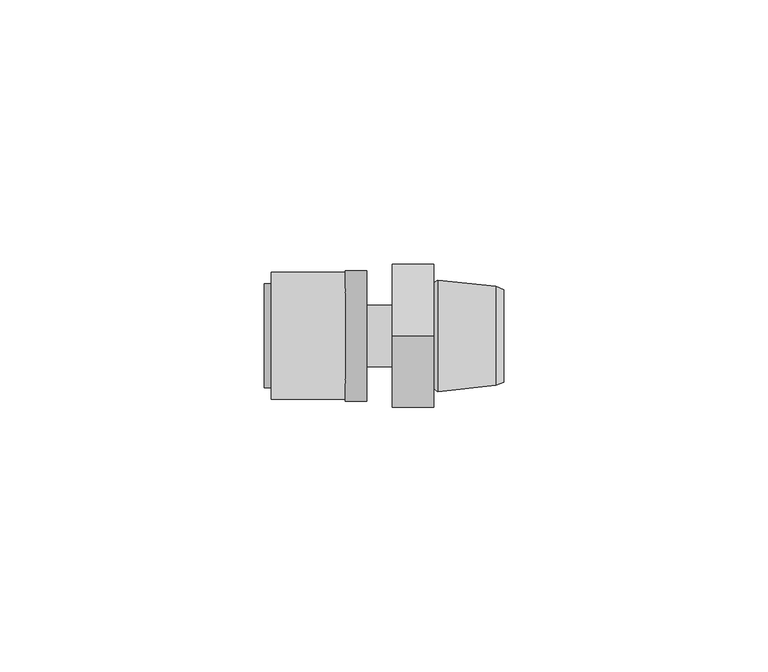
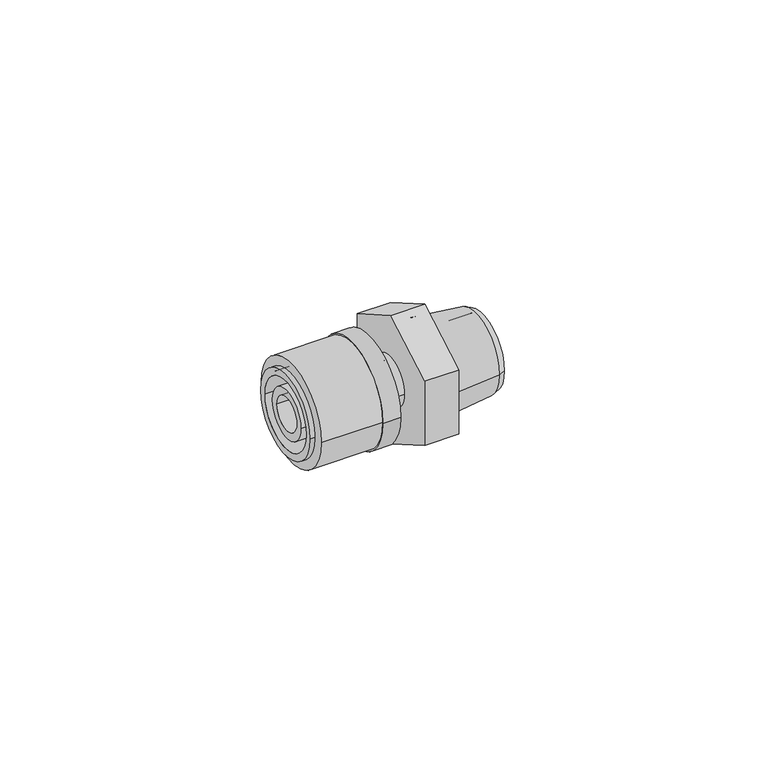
"""IFC4 building model written with IfcOpenShell, lengths in millimetres: pipe fitting geometry, FASTLOC_Adapter_RX+, with external thread : FSL A C external EX+ AT."""

from ifc_helpers import new_model, si_unit, point, frame, origin, origin_2d, place, context, project, spatial, polyline, circle_curve, trimmed, segment, composite_curve, outline, extrude, source, transform, mapped, element, save
from ifc_brep_helpers import plane_surface, cylinder_surface, revolved_surface, advanced_brep


def pipe_fitting_a8691e68(model_context):
    return source(origin(), model_context, "Body", "SolidModel", [
        extrude(outline(composite_curve([segment(trimmed(circle_curve(origin_2d(), 12.0), [point((12.0, 0.0))], [point((-12.0, 0.0))], False, "CARTESIAN"), True, "CONTINUOUS"), segment(trimmed(circle_curve(origin_2d(), 12.0), [point((-12.0, 0.0))], [point((12.0, 0.0))], False, "CARTESIAN"), True, "CONTINUOUS")], self_intersect=False), holes=[composite_curve([segment(trimmed(circle_curve(origin_2d(), 8.85), [point((8.85, 0.0))], [point((-8.85, 0.0))], True, "CARTESIAN"), True, "CONTINUOUS"), segment(trimmed(circle_curve(origin_2d(), 8.85), [point((-8.85, 0.0))], [point((8.85, 0.0))], True, "CARTESIAN"), True, "CONTINUOUS")], self_intersect=False)]), frame((-22.9, 0.0, 0.0), z_axis=(1.0, 0.0, 0.0), x_axis=(0.0, 1.0, 0.0)), (0.0, 0.0, 1.0), 14.0),
        advanced_brep(
        [(-8.9, -12.35, 0.0), (-8.9, 12.35, 0.0), (-4.9, 12.35, 0.0), (-4.9, -12.35, 0.0), (-24.2, -9.85, 0.0), (-24.2, 9.85, 0.0), (-8.9, 9.85, 0.0), (-8.9, -9.85, 0.0), (-4.9, -8.15, 0.0), (-4.9, 8.15, 0.0), (-24.2, 8.15, 0.0), (-24.2, -8.15, 0.0)],
        [
            (0, 1, circle_curve(frame((-8.9, 0.0, 0.0), z_axis=(1.0, 0.0, 0.0), x_axis=(0.0, 1.0, 0.0)), 12.35)),
            (1, 2),
            (2, 3, circle_curve(frame((-4.9, 0.0, 0.0), z_axis=(-1.0, 0.0, 0.0), x_axis=(0.0, 1.0, 0.0)), 12.35)),
            (3, 0),
            (4, 5, circle_curve(frame((-24.2, 0.0, 0.0), z_axis=(1.0, 0.0, 0.0), x_axis=(0.0, 1.0, 0.0)), 9.85)),
            (5, 6),
            (6, 7, circle_curve(frame((-8.9, 0.0, 0.0), z_axis=(-1.0, 0.0, 0.0), x_axis=(0.0, 1.0, 0.0)), 9.85)),
            (7, 4),
            (8, 9, circle_curve(frame((-4.9, 0.0, 0.0), z_axis=(1.0, 0.0, 0.0), x_axis=(0.0, 1.0, 0.0)), 8.15)),
            (9, 10),
            (10, 11, circle_curve(frame((-24.2, 0.0, 0.0), z_axis=(-1.0, 0.0, 0.0), x_axis=(0.0, 1.0, 0.0)), 8.15)),
            (11, 8),
            (1, 0, circle_curve(frame((-8.9, 0.0, 0.0), z_axis=(1.0, 0.0, 0.0), x_axis=(0.0, -1.0, 0.0)), 12.35)),
            (3, 2, circle_curve(frame((-4.9, 0.0, 0.0), z_axis=(-1.0, 0.0, 0.0), x_axis=(0.0, -1.0, 0.0)), 12.35)),
            (6, 7, circle_curve(frame((-8.9, 0.0, 0.0), z_axis=(1.0, 0.0, 0.0), x_axis=(0.0, -1.0, 0.0)), 9.85)),
            (5, 4, circle_curve(frame((-24.2, 0.0, 0.0), z_axis=(1.0, 0.0, 0.0), x_axis=(0.0, -1.0, 0.0)), 9.85)),
            (10, 11, circle_curve(frame((-24.2, 0.0, 0.0), z_axis=(1.0, 0.0, 0.0), x_axis=(0.0, -1.0, 0.0)), 8.15)),
            (9, 8, circle_curve(frame((-4.9, 0.0, 0.0), z_axis=(1.0, 0.0, 0.0), x_axis=(0.0, -1.0, 0.0)), 8.15)),
        ],
        [
            cylinder_surface(frame((-4.9, 0.0, 0.0), z_axis=(-1.0, 0.0, 0.0), x_axis=(0.0, 1.0, 0.0)), 12.35),
            cylinder_surface(frame((-4.9, 0.0, 0.0), z_axis=(-1.0, 0.0, 0.0), x_axis=(0.0, 1.0, 0.0)), 9.85),
            revolved_surface(polyline([(-24.199999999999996, 8.15, 0.0), (-4.9, 8.15, 0.0)]), (-4.9, 0.0, 0.0), (-1.0, 0.0, 0.0)),
            cylinder_surface(frame((-4.9, 0.0, 0.0), z_axis=(-1.0, 0.0, 0.0), x_axis=(0.0, -1.0, 0.0)), 12.35),
            plane_surface(frame((-8.9, 0.0, 0.0), z_axis=(-1.0, 0.0, 0.0), x_axis=(0.0, -1.0, 0.0))),
            cylinder_surface(frame((-4.9, 0.0, 0.0), z_axis=(-1.0, 0.0, 0.0), x_axis=(0.0, -1.0, 0.0)), 9.85),
            plane_surface(frame((-24.2, 0.0, 0.0), z_axis=(-1.0, 0.0, 0.0), x_axis=(0.0, -1.0, 0.0))),
            revolved_surface(polyline([(-24.199999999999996, -8.15, 0.0), (-4.9, -8.15, 0.0)]), (-4.9, 0.0, 0.0), (-1.0, 0.0, 0.0)),
            plane_surface(frame((-4.9, 0.0, 0.0), z_axis=(1.0, 0.0, 0.0), x_axis=(0.0, -1.0, 0.0))),
        ],
        [
            (0, [[1, 2, 3, 4]]),
            (1, [[5, 6, 7, 8]]),
            (2, [[9, 10, 11, 12]]),
            (3, [[13, -4, 14, -2]]),
            (4, [[-13, -1], [15, -7]]),
            (5, [[16, -8, -15, -6]]),
            (6, [[-16, -5], [17, -11]]),
            (7, [[18, -12, -17, -10]]),
            (8, [[-14, -3], [-18, -9]]),
        ],
    ),
        advanced_brep(
        [(8.9032803, 7.5, 0.0), (8.9032803, -7.5, 0.0), (21.0, -7.5, 0.0), (21.0, 7.5, 0.0), (7.8, 6.3967197, 0.0), (7.8, -6.3967197, 0.0), (8.5406902, 10.55, 0.0), (8.5406902, -10.55, 0.0), (7.8, -10.0, 0.0), (7.8, 10.0, 0.0), (19.5000007, 9.35, 0.0), (19.5000007, -9.35, 0.0), (21.0, 8.725, 0.0), (21.0, -8.725, 0.0)],
        [
            (0, 1, circle_curve(frame((8.9032803, 0.0, 0.0), z_axis=(-1.0, 0.0, 0.0), x_axis=(0.0, -1.0, 0.0)), 7.5)),
            (1, 2),
            (2, 3, circle_curve(frame((21.0, 0.0, 0.0), z_axis=(1.0, 0.0, 0.0), x_axis=(0.0, -1.0, 0.0)), 7.5)),
            (3, 0),
            (4, 5, circle_curve(frame((7.8, 0.0, 0.0), z_axis=(-1.0, 0.0, 0.0), x_axis=(0.0, -1.0, 0.0)), 6.3967197)),
            (5, 1),
            (0, 4),
            (6, 7, circle_curve(frame((8.5406902, 0.0, 0.0), z_axis=(-1.0, 0.0, 0.0), x_axis=(0.0, -1.0, 0.0)), 10.55)),
            (7, 8),
            (8, 9, circle_curve(frame((7.8, 0.0, 0.0), z_axis=(1.0, 0.0, 0.0), x_axis=(0.0, -1.0, 0.0)), 10.0)),
            (9, 6),
            (10, 11, circle_curve(frame((19.5000007, 0.0, 0.0), z_axis=(-1.0, 0.0, 0.0), x_axis=(0.0, -1.0, 0.0)), 9.35)),
            (11, 7),
            (6, 10),
            (12, 13, circle_curve(frame((21.0, 0.0, 0.0), z_axis=(-1.0, 0.0, 0.0), x_axis=(0.0, -1.0, 0.0)), 8.725)),
            (13, 11),
            (10, 12),
            (1, 0, circle_curve(frame((8.9032803, 0.0, 0.0), z_axis=(-1.0, 0.0, 0.0), x_axis=(0.0, 1.0, 0.0)), 7.5)),
            (3, 2, circle_curve(frame((21.0, 0.0, 0.0), z_axis=(1.0, 0.0, 0.0), x_axis=(0.0, 1.0, 0.0)), 7.5)),
            (5, 4, circle_curve(frame((7.8, 0.0, 0.0), z_axis=(-1.0, 0.0, 0.0), x_axis=(0.0, 1.0, 0.0)), 6.3967197)),
            (8, 9, circle_curve(frame((7.8, 0.0, 0.0), z_axis=(-1.0, 0.0, 0.0), x_axis=(0.0, 1.0, 0.0)), 10.0)),
            (7, 6, circle_curve(frame((8.5406902, 0.0, 0.0), z_axis=(-1.0, 0.0, 0.0), x_axis=(0.0, 1.0, 0.0)), 10.55)),
            (11, 10, circle_curve(frame((19.5000007, 0.0, 0.0), z_axis=(-1.0, 0.0, 0.0), x_axis=(0.0, 1.0, 0.0)), 9.35)),
            (13, 12, circle_curve(frame((21.0, 0.0, 0.0), z_axis=(-1.0, 0.0, 0.0), x_axis=(0.0, 1.0, 0.0)), 8.725)),
        ],
        [
            revolved_surface(polyline([(21.0, -7.5, 0.0), (8.9032803, -7.5, 0.0)]), (0.0, 0.0, 0.0), (1.0, 0.0, 0.0)),
            revolved_surface(polyline([(8.9032803, -7.5, 0.0), (7.8, -6.3967197, 0.0)]), (0.0, 0.0, 0.0), (1.0, 0.0, 0.0)),
            revolved_surface(polyline([(7.8, -10.0, 0.0), (8.5406902, -10.55, 0.0)]), (0.0, 0.0, 0.0), (1.0, 0.0, 0.0)),
            revolved_surface(polyline([(8.5406902, -10.55, 0.0), (19.5000007, -9.35, 0.0)]), (0.0, 0.0, 0.0), (1.0, 0.0, 0.0)),
            revolved_surface(polyline([(19.5000007, -9.35, 0.0), (21.0, -8.725, 0.0)]), (0.0, 0.0, 0.0), (1.0, 0.0, 0.0)),
            revolved_surface(polyline([(21.0, 7.5, 0.0), (8.9032803, 7.5, 0.0)]), (0.0, 0.0, 0.0), (1.0, 0.0, 0.0)),
            revolved_surface(polyline([(8.9032803, 7.5, 0.0), (7.8, 6.3967197, 0.0)]), (0.0, 0.0, 0.0), (1.0, 0.0, 0.0)),
            plane_surface(frame((7.8, 0.0, 0.0), z_axis=(-1.0, 0.0, 0.0), x_axis=(0.0, 1.0, 0.0))),
            revolved_surface(polyline([(7.8, 10.0, 0.0), (8.5406902, 10.55, 0.0)]), (0.0, 0.0, 0.0), (1.0, 0.0, 0.0)),
            revolved_surface(polyline([(8.5406902, 10.55, 0.0), (19.5000007, 9.35, 0.0)]), (0.0, 0.0, 0.0), (1.0, 0.0, 0.0)),
            revolved_surface(polyline([(19.5000007, 9.35, 0.0), (21.0, 8.725, 0.0)]), (0.0, 0.0, 0.0), (1.0, 0.0, 0.0)),
            plane_surface(frame((21.0, 0.0, 0.0), z_axis=(1.0, 0.0, 0.0), x_axis=(0.0, 1.0, 0.0))),
        ],
        [
            (0, [[1, 2, 3, 4]]),
            (1, [[5, 6, -1, 7]]),
            (2, [[8, 9, 10, 11]]),
            (3, [[12, 13, -8, 14]]),
            (4, [[15, 16, -12, 17]]),
            (5, [[18, -4, 19, -2]]),
            (6, [[20, -7, -18, -6]]),
            (7, [[21, -10], [-20, -5]]),
            (8, [[22, -11, -21, -9]]),
            (9, [[23, -14, -22, -13]]),
            (10, [[24, -17, -23, -16]]),
            (11, [[-24, -15], [-19, -3]]),
        ],
    ),
        extrude(outline(polyline([(-13.5, 7.7942286), (0.0, 15.5884573), (13.5, 7.7942286), (13.5, -7.7942286), (0.0, -15.5884573), (-13.5, -7.7942286), (-13.5, 7.7942286)])), frame((0.0, 0.0, 0.0), z_axis=(1.0, 0.0, 0.0), x_axis=(0.0, 1.0, 0.0)), (0.0, 0.0, 1.0), 7.8),
        advanced_brep(
        [(-23.9, 3.95, 0.0), (-23.9, -3.95, 0.0), (0.0, -3.95, 0.0), (0.0, 3.95, 0.0), (0.0, 5.8, 0.0), (0.0, -5.8, 0.0), (-6.2, -5.8, 0.0), (-6.2, 5.8, 0.0), (-6.2, 6.9, 0.0), (-6.2, -6.9, 0.0), (-8.9, -6.9, 0.0), (-8.9, 6.9, 0.0), (-8.9, 5.8, 0.0), (-8.9, -5.8, 0.0), (-23.9, -5.8, 0.0), (-23.9, 5.8, 0.0)],
        [
            (0, 1, circle_curve(frame((-23.9, 0.0, 0.0), z_axis=(-1.0, 0.0, 0.0), x_axis=(0.0, -1.0, 0.0)), 3.95)),
            (1, 2),
            (2, 3, circle_curve(frame((0.0, 0.0, 0.0), z_axis=(1.0, 0.0, 0.0), x_axis=(0.0, -1.0, 0.0)), 3.95)),
            (3, 0),
            (4, 5, circle_curve(frame((0.0, 0.0, 0.0), z_axis=(-1.0, 0.0, 0.0), x_axis=(0.0, -1.0, 0.0)), 5.8)),
            (5, 6),
            (6, 7, circle_curve(frame((-6.2, 0.0, 0.0), z_axis=(1.0, 0.0, 0.0), x_axis=(0.0, -1.0, 0.0)), 5.8)),
            (7, 4),
            (8, 9, circle_curve(frame((-6.2, 0.0, 0.0), z_axis=(-1.0, 0.0, 0.0), x_axis=(0.0, -1.0, 0.0)), 6.9)),
            (9, 10),
            (10, 11, circle_curve(frame((-8.9, 0.0, 0.0), z_axis=(1.0, 0.0, 0.0), x_axis=(0.0, -1.0, 0.0)), 6.9)),
            (11, 8),
            (12, 13, circle_curve(frame((-8.9, 0.0, 0.0), z_axis=(-1.0, 0.0, 0.0), x_axis=(0.0, -1.0, 0.0)), 5.8)),
            (13, 14),
            (14, 15, circle_curve(frame((-23.9, 0.0, 0.0), z_axis=(1.0, 0.0, 0.0), x_axis=(0.0, -1.0, 0.0)), 5.8)),
            (15, 12),
            (1, 0, circle_curve(frame((-23.9, 0.0, 0.0), z_axis=(-1.0, 0.0, 0.0), x_axis=(0.0, 1.0, 0.0)), 3.95)),
            (3, 2, circle_curve(frame((0.0, 0.0, 0.0), z_axis=(1.0, 0.0, 0.0), x_axis=(0.0, 1.0, 0.0)), 3.95)),
            (4, 5, circle_curve(frame((0.0, 0.0, 0.0), z_axis=(1.0, 0.0, 0.0), x_axis=(0.0, 1.0, 0.0)), 5.8)),
            (7, 6, circle_curve(frame((-6.2, 0.0, 0.0), z_axis=(1.0, 0.0, 0.0), x_axis=(0.0, 1.0, 0.0)), 5.8)),
            (8, 9, circle_curve(frame((-6.2, 0.0, 0.0), z_axis=(1.0, 0.0, 0.0), x_axis=(0.0, 1.0, 0.0)), 6.9)),
            (11, 10, circle_curve(frame((-8.9, 0.0, 0.0), z_axis=(1.0, 0.0, 0.0), x_axis=(0.0, 1.0, 0.0)), 6.9)),
            (12, 13, circle_curve(frame((-8.9, 0.0, 0.0), z_axis=(1.0, 0.0, 0.0), x_axis=(0.0, 1.0, 0.0)), 5.8)),
            (15, 14, circle_curve(frame((-23.9, 0.0, 0.0), z_axis=(1.0, 0.0, 0.0), x_axis=(0.0, 1.0, 0.0)), 5.8)),
        ],
        [
            revolved_surface(polyline([(0.0, -3.95, 0.0), (-23.9, -3.95, 0.0)]), (0.0, 0.0, 0.0), (1.0, 0.0, 0.0)),
            cylinder_surface(frame((0.0, 0.0, 0.0), z_axis=(1.0, 0.0, 0.0), x_axis=(0.0, -1.0, 0.0)), 5.8),
            cylinder_surface(frame((0.0, 0.0, 0.0), z_axis=(1.0, 0.0, 0.0), x_axis=(0.0, -1.0, 0.0)), 6.9),
            revolved_surface(polyline([(0.0, 3.95, 0.0), (-23.9, 3.95, 0.0)]), (0.0, 0.0, 0.0), (1.0, 0.0, 0.0)),
            plane_surface(frame((0.0, 0.0, 0.0), z_axis=(1.0, 0.0, 0.0), x_axis=(0.0, 1.0, 0.0))),
            cylinder_surface(frame((0.0, 0.0, 0.0), z_axis=(1.0, 0.0, 0.0), x_axis=(0.0, 1.0, 0.0)), 5.8),
            plane_surface(frame((-6.2, 0.0, 0.0), z_axis=(1.0, 0.0, 0.0), x_axis=(0.0, 1.0, 0.0))),
            cylinder_surface(frame((0.0, 0.0, 0.0), z_axis=(1.0, 0.0, 0.0), x_axis=(0.0, 1.0, 0.0)), 6.9),
            plane_surface(frame((-8.9, 0.0, 0.0), z_axis=(-1.0, 0.0, 0.0), x_axis=(0.0, 1.0, 0.0))),
            plane_surface(frame((-23.9, 0.0, 0.0), z_axis=(-1.0, 0.0, 0.0), x_axis=(0.0, 1.0, 0.0))),
        ],
        [
            (0, [[1, 2, 3, 4]]),
            (1, [[5, 6, 7, 8]]),
            (2, [[9, 10, 11, 12]]),
            (1, [[13, 14, 15, 16]]),
            (3, [[17, -4, 18, -2]]),
            (4, [[19, -5], [-18, -3]]),
            (5, [[-19, -8, 20, -6]]),
            (6, [[21, -9], [-20, -7]]),
            (7, [[-21, -12, 22, -10]]),
            (8, [[-22, -11], [23, -13]]),
            (5, [[-23, -16, 24, -14]]),
            (9, [[-24, -15], [-17, -1]]),
        ],
    ),
    ])


if __name__ == "__main__":
    model = new_model("IFC4")
    model_context = context("Model", 3, world=origin())
    ifc_project = project(units=[si_unit("LENGTHUNIT", "METRE", prefix="MILLI")], contexts=[model_context])
    site = spatial("IfcSite", under=ifc_project)
    building = spatial("IfcBuilding", under=site)
    placement = place(None, origin())
    pipe_fitting_shape = pipe_fitting_a8691e68(model_context)
    element("IfcPipeFitting", 1, ObjectType="FASTLOC_Adapter_RX+, with external thread : FSL A C external EX+ AT", at=placement, inside=building, context=model_context, shape_type="MappedRepresentation", body=[
        mapped(pipe_fitting_shape, transform((0.0, 0.0, 0.0), x_axis=(1.0, 0.0, 0.0), y_axis=(0.0, 1.0, 0.0), z_axis=(0.0, 0.0, 1.0))),
    ])
    save(model, "model.ifc")
